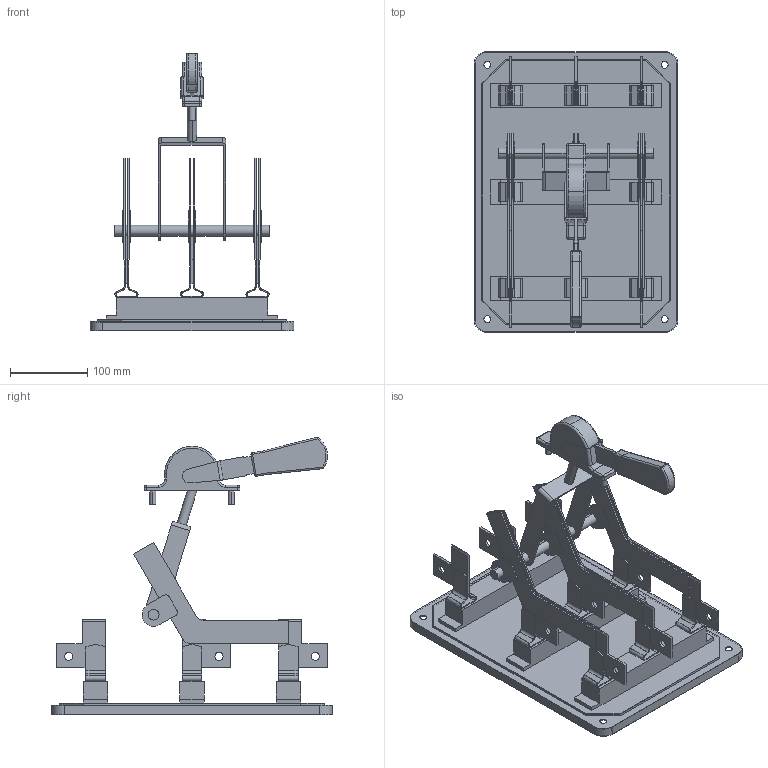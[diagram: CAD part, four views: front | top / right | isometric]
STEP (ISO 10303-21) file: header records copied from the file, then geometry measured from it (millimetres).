
FILE_DESCRIPTION (( 'STEP AP214' ), '1' );
FILE_NAME ('Ïåðåêëþ÷àòåëü ÏÖ-2-250À-Ó3-ÊÝÀÇ.STEP', '2023-05-01T19:53:20', ( '' ), ( '' ), 'SwSTEP 2.0', 'SolidWorks 2018', '' );
FILE_SCHEMA (( 'AUTOMOTIVE_DESIGN' ));
Length unit declared in the file: millimetre
Products named in the file (1): Ïåðåêëþ÷àòåëü ÏÖ-2-250À-Ó3-ÊÝÀÇ
Bounding box: 264 x 364 x 359.53 mm (x, y, z)
Volume: 1110694 mm3; surface area: 512759.5 mm2
Topology: 7 solids, 7 shells, 649 faces, 1786 edges, 1145 vertices
Faces by surface type: plane 376, cylinder 247, sphere 14, torus 12
Entity records: 27830 total; most frequent: CARTESIAN_POINT 3595, DIRECTION 3593, ORIENTED_EDGE 3556, EDGE_CURVE 1778, LINE 1247, VECTOR 1247, AXIS2_PLACEMENT_3D 1173, VERTEX_POINT 1143
